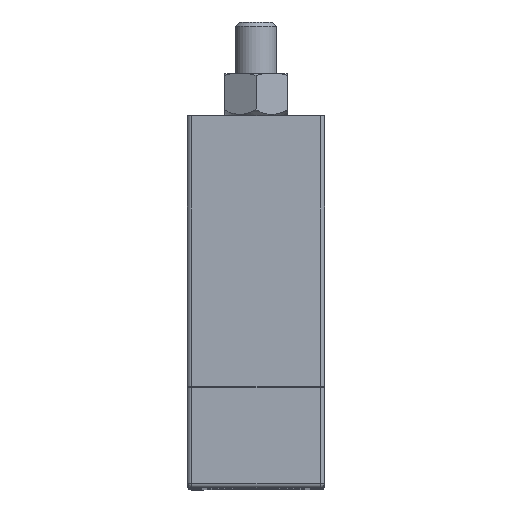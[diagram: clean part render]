
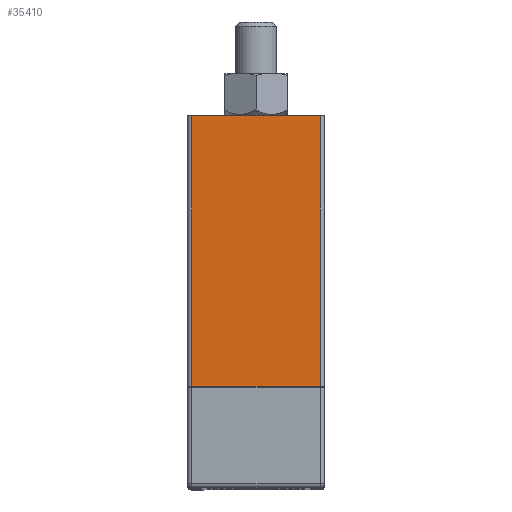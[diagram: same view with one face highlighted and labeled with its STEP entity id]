
A CAD part, top view. The second image highlights one B-rep face of the part: STEP entity #35410.
In plain terms, the highlighted planar face has unit normal (0, 0, 1).
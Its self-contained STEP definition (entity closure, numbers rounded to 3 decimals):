
#869 = DIRECTION ( 'NONE',  ( 0., -1., 0. ) ) ;
#1227 = LINE ( 'NONE', #13076, #23284 ) ;
#2118 = CARTESIAN_POINT ( 'NONE',  ( -141.671, 4.318, 342. ) ) ;
#2924 = DIRECTION ( 'NONE',  ( 0., 0., 1. ) ) ;
#4076 = CARTESIAN_POINT ( 'NONE',  ( -126.271, 37.318, 342. ) ) ;
#5817 = EDGE_CURVE ( 'NONE', #39504, #32302, #1227, .T. ) ;
#6876 = LINE ( 'NONE', #12564, #29453 ) ;
#7731 = AXIS2_PLACEMENT_3D ( 'NONE', #18257, #2924, #9102 ) ;
#9102 = DIRECTION ( 'NONE',  ( 1., 0., 0. ) ) ;
#9323 = DIRECTION ( 'NONE',  ( -1., 0., 0. ) ) ;
#10636 = VERTEX_POINT ( 'NONE', #2118 ) ;
#11398 = ORIENTED_EDGE ( 'NONE', *, *, #13307, .F. ) ;
#12564 = CARTESIAN_POINT ( 'NONE',  ( -133.971, 4.318, 342. ) ) ;
#12807 = ORIENTED_EDGE ( 'NONE', *, *, #5817, .T. ) ;
#13076 = CARTESIAN_POINT ( 'NONE',  ( -133.971, 36.718, 342. ) ) ;
#13307 = EDGE_CURVE ( 'NONE', #13954, #10636, #6876, .T. ) ;
#13860 = VECTOR ( 'NONE', #16263, 1000. ) ;
#13954 = VERTEX_POINT ( 'NONE', #29065 ) ;
#14993 = EDGE_CURVE ( 'NONE', #39504, #13954, #27854, .T. ) ;
#15509 = CARTESIAN_POINT ( 'NONE',  ( -126.271, 36.718, 342. ) ) ;
#16263 = DIRECTION ( 'NONE',  ( 0., -1., 0. ) ) ;
#17334 = VECTOR ( 'NONE', #869, 1000. ) ;
#18257 = CARTESIAN_POINT ( 'NONE',  ( -127.971, 37.318, 342. ) ) ;
#23284 = VECTOR ( 'NONE', #34483, 1000. ) ;
#24313 = CARTESIAN_POINT ( 'NONE',  ( -141.671, 36.718, 342. ) ) ;
#24457 = EDGE_LOOP ( 'NONE', ( #11398, #25480, #12807, #35479 ) ) ;
#25480 = ORIENTED_EDGE ( 'NONE', *, *, #14993, .F. ) ;
#27437 = PLANE ( 'NONE',  #7731 ) ;
#27854 = LINE ( 'NONE', #4076, #17334 ) ;
#29065 = CARTESIAN_POINT ( 'NONE',  ( -126.271, 4.318, 342. ) ) ;
#29453 = VECTOR ( 'NONE', #9323, 1000. ) ;
#32302 = VERTEX_POINT ( 'NONE', #24313 ) ;
#34483 = DIRECTION ( 'NONE',  ( -1., 0., 0. ) ) ;
#35410 = ADVANCED_FACE ( 'NONE', ( #35647 ), #27437, .T. ) ;
#35479 = ORIENTED_EDGE ( 'NONE', *, *, #36202, .T. ) ;
#35647 = FACE_OUTER_BOUND ( 'NONE', #24457, .T. ) ;
#36202 = EDGE_CURVE ( 'NONE', #32302, #10636, #37298, .T. ) ;
#37298 = LINE ( 'NONE', #37932, #13860 ) ;
#37932 = CARTESIAN_POINT ( 'NONE',  ( -141.671, 37.318, 342. ) ) ;
#39504 = VERTEX_POINT ( 'NONE', #15509 ) ;
